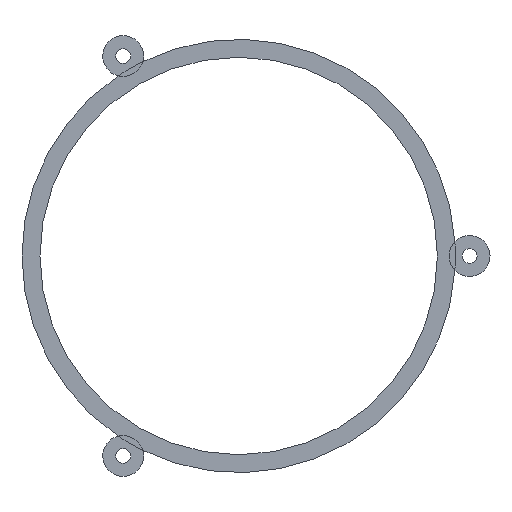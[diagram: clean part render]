
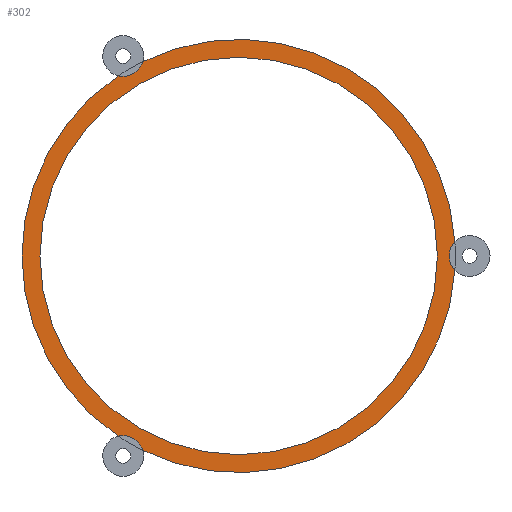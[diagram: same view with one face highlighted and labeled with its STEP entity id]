
A CAD part, front view. The second image highlights one B-rep face of the part: STEP entity #302.
In plain terms, the highlighted planar face has unit normal (0, -1, 0).
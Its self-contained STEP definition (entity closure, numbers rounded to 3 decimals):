
#45=FACE_BOUND('',#79,.T.);
#54=FACE_OUTER_BOUND('',#78,.T.);
#78=EDGE_LOOP('',(#205,#206,#207,#208,#209,#210));
#79=EDGE_LOOP('',(#211));
#109=CIRCLE('',#340,3.3);
#111=CIRCLE('',#343,3.3);
#112=CIRCLE('',#344,35.);
#113=CIRCLE('',#345,3.3);
#114=CIRCLE('',#346,35.);
#115=CIRCLE('',#347,35.);
#116=CIRCLE('',#348,32.1);
#141=VERTEX_POINT('',#521);
#142=VERTEX_POINT('',#522);
#143=VERTEX_POINT('',#526);
#144=VERTEX_POINT('',#527);
#145=VERTEX_POINT('',#529);
#146=VERTEX_POINT('',#531);
#147=VERTEX_POINT('',#535);
#161=EDGE_CURVE('',#141,#142,#109,.T.);
#163=EDGE_CURVE('',#143,#144,#111,.T.);
#164=EDGE_CURVE('',#145,#144,#112,.T.);
#165=EDGE_CURVE('',#145,#146,#113,.T.);
#166=EDGE_CURVE('',#141,#146,#114,.T.);
#167=EDGE_CURVE('',#143,#142,#115,.T.);
#168=EDGE_CURVE('',#147,#147,#116,.T.);
#205=ORIENTED_EDGE('',*,*,#163,.T.);
#206=ORIENTED_EDGE('',*,*,#164,.F.);
#207=ORIENTED_EDGE('',*,*,#165,.T.);
#208=ORIENTED_EDGE('',*,*,#166,.F.);
#209=ORIENTED_EDGE('',*,*,#161,.T.);
#210=ORIENTED_EDGE('',*,*,#167,.F.);
#211=ORIENTED_EDGE('',*,*,#168,.T.);
#288=PLANE('',#342);
#302=ADVANCED_FACE('',(#54,#45),#288,.F.);
#340=AXIS2_PLACEMENT_3D('',#523,#399,#400);
#342=AXIS2_PLACEMENT_3D('',#525,#403,#404);
#343=AXIS2_PLACEMENT_3D('',#528,#405,#406);
#344=AXIS2_PLACEMENT_3D('',#530,#407,#408);
#345=AXIS2_PLACEMENT_3D('',#532,#409,#410);
#346=AXIS2_PLACEMENT_3D('',#533,#411,#412);
#347=AXIS2_PLACEMENT_3D('',#534,#413,#414);
#348=AXIS2_PLACEMENT_3D('',#536,#415,#416);
#399=DIRECTION('center_axis',(0.,1.,0.));
#400=DIRECTION('ref_axis',(0.,0.,
1.));
#403=DIRECTION('center_axis',(0.,1.,0.));
#404=DIRECTION('ref_axis',(0.,0.,
1.));
#405=DIRECTION('center_axis',(0.,1.,0.));
#406=DIRECTION('ref_axis',(0.,0.,
1.));
#407=DIRECTION('center_axis',(0.,1.,0.));
#408=DIRECTION('ref_axis',(0.,0.,
1.));
#409=DIRECTION('center_axis',(0.,1.,0.));
#410=DIRECTION('ref_axis',(0.,0.,
1.));
#411=DIRECTION('center_axis',(0.,1.,0.));
#412=DIRECTION('ref_axis',(0.,0.,
1.));
#413=DIRECTION('center_axis',(0.,1.,0.));
#414=DIRECTION('ref_axis',(0.,0.,
1.));
#415=DIRECTION('center_axis',(0.,1.,0.));
#416=DIRECTION('ref_axis',(0.,0.,
1.));
#521=CARTESIAN_POINT('',(-19.447,-95.05,423.9));
#522=CARTESIAN_POINT('',(-15.478,-95.05,421.609));
#523=CARTESIAN_POINT('Origin',(-18.65,-95.05,420.697));
#525=CARTESIAN_POINT('Origin',(0.,-95.05,453.));
#526=CARTESIAN_POINT('',(34.925,-95.05,450.709));
#527=CARTESIAN_POINT('',(34.925,-95.05,455.291));
#528=CARTESIAN_POINT('Origin',(37.3,-95.05,453.));
#529=CARTESIAN_POINT('',(-15.478,-95.05,484.391));
#530=CARTESIAN_POINT('Origin',(0.,-95.05,453.));
#531=CARTESIAN_POINT('',(-19.447,-95.05,482.1));
#532=CARTESIAN_POINT('Origin',(-18.65,-95.05,485.303));
#533=CARTESIAN_POINT('Origin',(0.,-95.05,453.));
#534=CARTESIAN_POINT('Origin',(0.,-95.05,453.));
#535=CARTESIAN_POINT('',(0.,-95.05,420.9));
#536=CARTESIAN_POINT('Origin',(0.,-95.05,453.));
